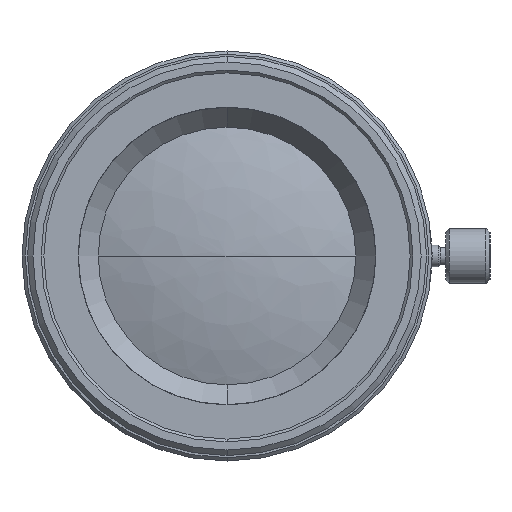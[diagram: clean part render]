
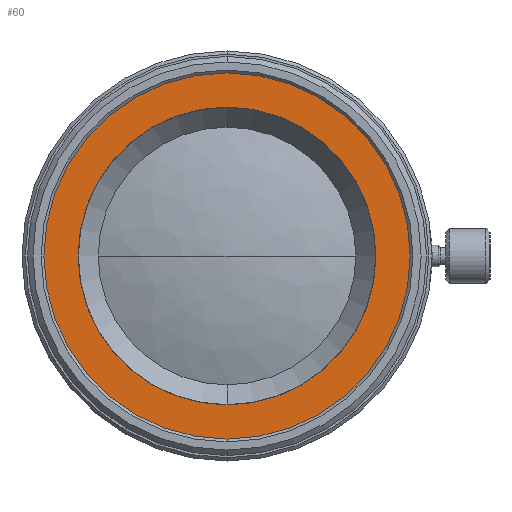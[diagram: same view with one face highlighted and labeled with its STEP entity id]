
A CAD part, left-side view. The second image highlights one B-rep face of the part: STEP entity #60.
In plain terms, the highlighted planar face has unit normal (-1, 0, 0).
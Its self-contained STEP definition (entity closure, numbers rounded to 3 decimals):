
#14 = CIRCLE ( 'NONE', #76, 13.623 ) ;
#53 = DIRECTION ( 'NONE',  ( -1., 0., 0. ) ) ;
#60 = ADVANCED_FACE ( 'NONE', ( #2196, #1171 ), #3221, .F. ) ;
#76 = AXIS2_PLACEMENT_3D ( 'NONE', #3197, #150, #1166 ) ;
#96 = AXIS2_PLACEMENT_3D ( 'NONE', #1662, #382, #1398 ) ;
#150 = DIRECTION ( 'NONE',  ( -1., 0., 0. ) ) ;
#192 = EDGE_CURVE ( 'NONE', #2533, #342, #2555, .T. ) ;
#246 = AXIS2_PLACEMENT_3D ( 'NONE', #2353, #53, #1325 ) ;
#342 = VERTEX_POINT ( 'NONE', #795 ) ;
#382 = DIRECTION ( 'NONE',  ( -1., 0., 0. ) ) ;
#426 = AXIS2_PLACEMENT_3D ( 'NONE', #2664, #1397, #1151 ) ;
#565 = ORIENTED_EDGE ( 'NONE', *, *, #192, .F. ) ;
#592 = DIRECTION ( 'NONE',  ( -1., 0., 0. ) ) ;
#795 = CARTESIAN_POINT ( 'NONE',  ( -66.496, 0., -13.623 ) ) ;
#943 = CARTESIAN_POINT ( 'NONE',  ( -66.496, 0., 13.623 ) ) ;
#1122 = EDGE_CURVE ( 'NONE', #2026, #1669, #1738, .T. ) ;
#1151 = DIRECTION ( 'NONE',  ( 0., 0., -1. ) ) ;
#1166 = DIRECTION ( 'NONE',  ( 0., 0., 1. ) ) ;
#1171 = FACE_OUTER_BOUND ( 'NONE', #1700, .T. ) ;
#1317 = CIRCLE ( 'NONE', #96, 16.75 ) ;
#1325 = DIRECTION ( 'NONE',  ( 0., 0., 1. ) ) ;
#1395 = CARTESIAN_POINT ( 'NONE',  ( -66.496, 0., 16.75 ) ) ;
#1397 = DIRECTION ( 'NONE',  ( 1., 0., 0. ) ) ;
#1398 = DIRECTION ( 'NONE',  ( 0., 0., 1. ) ) ;
#1579 = EDGE_LOOP ( 'NONE', ( #565, #2410 ) ) ;
#1602 = DIRECTION ( 'NONE',  ( 0., 0., 1. ) ) ;
#1662 = CARTESIAN_POINT ( 'NONE',  ( -66.496, 0., 0. ) ) ;
#1669 = VERTEX_POINT ( 'NONE', #2123 ) ;
#1700 = EDGE_LOOP ( 'NONE', ( #2918, #2518 ) ) ;
#1711 = EDGE_CURVE ( 'NONE', #1669, #2026, #1317, .T. ) ;
#1738 = CIRCLE ( 'NONE', #246, 16.75 ) ;
#2026 = VERTEX_POINT ( 'NONE', #1395 ) ;
#2123 = CARTESIAN_POINT ( 'NONE',  ( -66.496, 0., -16.75 ) ) ;
#2196 = FACE_BOUND ( 'NONE', #1579, .T. ) ;
#2278 = EDGE_CURVE ( 'NONE', #342, #2533, #14, .T. ) ;
#2353 = CARTESIAN_POINT ( 'NONE',  ( -66.496, 0., 0. ) ) ;
#2410 = ORIENTED_EDGE ( 'NONE', *, *, #2278, .F. ) ;
#2518 = ORIENTED_EDGE ( 'NONE', *, *, #1711, .T. ) ;
#2533 = VERTEX_POINT ( 'NONE', #943 ) ;
#2555 = CIRCLE ( 'NONE', #2989, 13.623 ) ;
#2664 = CARTESIAN_POINT ( 'NONE',  ( -66.496, 16.75, 0. ) ) ;
#2878 = CARTESIAN_POINT ( 'NONE',  ( -66.496, 0., 0. ) ) ;
#2918 = ORIENTED_EDGE ( 'NONE', *, *, #1122, .T. ) ;
#2989 = AXIS2_PLACEMENT_3D ( 'NONE', #2878, #592, #1602 ) ;
#3197 = CARTESIAN_POINT ( 'NONE',  ( -66.496, 0., 0. ) ) ;
#3221 = PLANE ( 'NONE',  #426 ) ;
